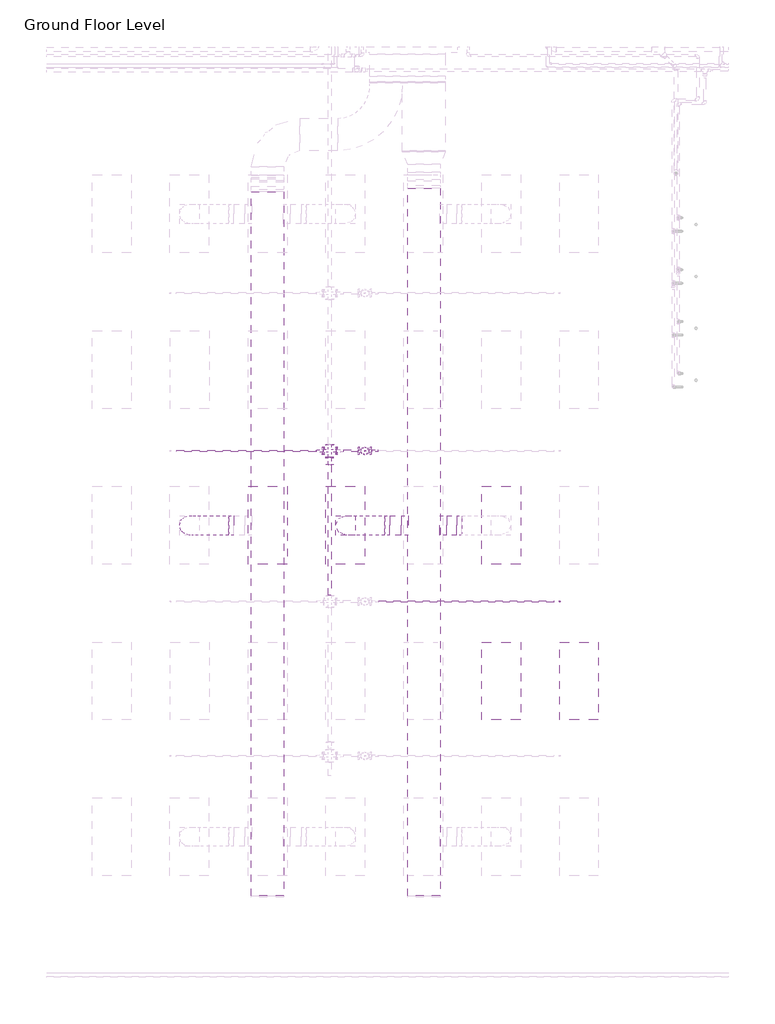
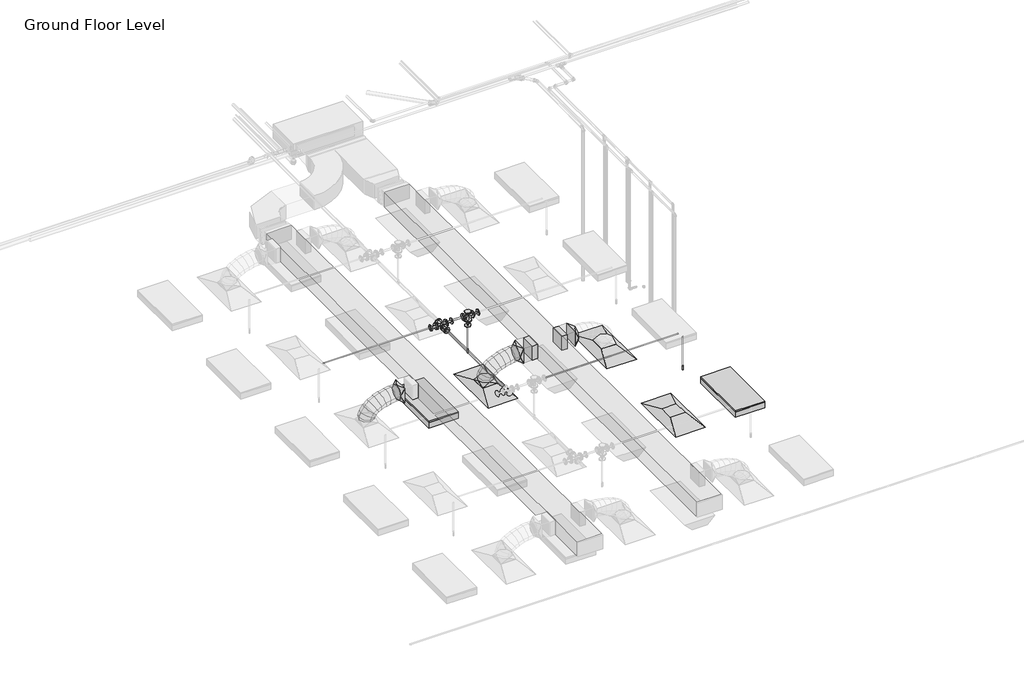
# One storey, part 46 of 74: 7 pipe fittings, 6 duct fittings, 6 duct segments, 6 pipe segments, 3 air terminals, 2 fire suppression terminals, 2 light fixtures.
"""IFC4 building model written with IfcOpenShell, lengths in millimetres."""

from ifc_helpers import new_model, si_unit, point, frame, frame_2d, origin, place, context, project, spatial, polyline, circle_curve, ellipse_curve, trimmed, segment, composite_curve, outline, extrude, transform, mapped, element, save
from ifc_brep_helpers import plane_surface, cylinder_surface, advanced_brep
from components import m_return_diffuser_1200x600_1200_x_600_face_300_x_300_d1983ef6, m_rectangular_takeoff_standard_cb0ccb98, m_rectangular_takeoff_standard_2be5eba1, m_rectangular_to_round_transition_angle_45_degree_641efff0, m_sprinkler_dry_pendent_hosted_15_mm_dry_pendent_9bda8e11, m_troffer_light_parabolic_rectangular1_0600x1200mm_4_lamp_86473d4a, m_cross_flanged_cs_class_150_standard_fc817054, m_reducer_flanged_cs_class_150_standard_ccf252ad, m_reducer_flanged_cs_class_150_standard_d42b2106, m_reducer_flanged_cs_class_150_standard_83138b42, m_reducer_flanged_cs_class_150_standard_564df86d, m_reducer_flanged_cs_class_150_standard_8338f9e4, m_tee_round_base_flanged_cs_class_150_standard_7e5987a1

model = new_model("IFC4")

# Units and contexts
model_context = context("Model", 3, world=origin())
ifc_project = project(units=[si_unit("LENGTHUNIT", "METRE", prefix="MILLI")], contexts=[model_context])

# Site, building, storey
site = spatial("IfcSite", under=ifc_project)
building = spatial("IfcBuilding", under=site)
storey = spatial("IfcBuildingStorey", under=building, Name="Ground Floor Level", Elevation=900.0)

# Air terminals
placement = place(None, origin())
m_return_diffuser_1200x600_1200_x_600_face_300_x_300_shape = m_return_diffuser_1200x600_1200_x_600_face_300_x_300_d1983ef6(model_context)
element("IfcAirTerminal", 1, ObjectType="M_Return Diffuser 1200x600 : 1200 x 600 Face 300 x 300 Connection", at=placement, inside=storey, context=model_context, shape_type="MappedRepresentation", body=[
    mapped(m_return_diffuser_1200x600_1200_x_600_face_300_x_300_shape, transform((-3337.2327605, 4035.2153534, 3650.0), x_axis=(0.0, 1.0, 0.0), y_axis=(-1.0, 0.0, 0.0), z_axis=(0.0, 0.0, 1.0))),
])
element("IfcAirTerminal", 2, ObjectType="M_Supply Diffuser 1200x600 : 1200 x 600 Face 300 x 300 Connection", at=placement, inside=storey, context=model_context, shape_type="MappedRepresentation", body=[
    mapped(m_return_diffuser_1200x600_1200_x_600_face_300_x_300_shape, transform((-5737.2327605, 6435.2153534, 3650.0), x_axis=(0.0, 1.0, 0.0), y_axis=(-1.0, 0.0, 0.0), z_axis=(0.0, 0.0, 1.0))),
])
element("IfcAirTerminal", 3, ObjectType="M_Supply Diffuser 1200x600 : 1200 x 600 Face 300 x 300 Connection", at=placement, inside=storey, context=model_context, shape_type="MappedRepresentation", body=[
    mapped(m_return_diffuser_1200x600_1200_x_600_face_300_x_300_shape, transform((-3337.2327605, 6435.2153534, 3650.0), x_axis=(0.0, 1.0, 0.0), y_axis=(-1.0, 0.0, 0.0), z_axis=(0.0, 0.0, 1.0))),
])

# Duct fittings
m_rectangular_takeoff_standard_shape = m_rectangular_takeoff_standard_cb0ccb98(model_context)
element("IfcDuctFitting", 4, ObjectType="M_Rectangular Takeoff : Standard", at=placement, inside=storey, context=model_context, shape_type="MappedRepresentation", body=[
    mapped(m_rectangular_takeoff_standard_shape, transform((-4278.6910789, 6435.2153534, 4150.0), x_axis=(1.0, 0.0, 0.0), y_axis=(0.0, -1.0, 0.0), z_axis=(0.0, 0.0, -1.0))),
])
m_rectangular_takeoff_standard_2_shape = m_rectangular_takeoff_standard_2be5eba1(model_context)
element("IfcDuctFitting", 5, ObjectType="M_Rectangular Takeoff : Standard", at=placement, inside=storey, context=model_context, shape_type="MappedRepresentation", body=[
    mapped(m_rectangular_takeoff_standard_2_shape, transform((-4778.6910789, 6435.2153534, 4150.0), x_axis=(-1.0, 0.0, 0.0), y_axis=(0.0, 1.0, 0.0), z_axis=(0.0, 0.0, -1.0))),
])
m_rectangular_to_round_transition_angle_45_degree_shape = m_rectangular_to_round_transition_angle_45_degree_641efff0(model_context)
element("IfcDuctFitting", 6, ObjectType="M_Rectangular to Round Transition - Angle : 45 Degree", at=placement, inside=storey, context=model_context, shape_type="MappedRepresentation", body=[
    mapped(m_rectangular_to_round_transition_angle_45_degree_shape, transform((-4018.6539738, 6435.2153534, 4150.0), x_axis=(1.0, 0.0, 0.0), y_axis=(0.0, 1.0, 0.0), z_axis=(0.0, 0.0, 1.0))),
])
element("IfcDuctFitting", 7, ObjectType="M_Rectangular to Round Transition - Angle : 45 Degree", at=placement, inside=storey, context=model_context, shape_type="MappedRepresentation", body=[
    mapped(m_rectangular_to_round_transition_angle_45_degree_shape, transform((-5737.2327605, 6435.2153534, 3751.6), x_axis=(0.0, 0.0, 1.0), y_axis=(-1.0, 0.0, 0.0), z_axis=(0.0, -1.0, 0.0))),
])
element("IfcDuctFitting", 8, ObjectType="M_Rectangular to Round Transition - Angle : 45 Degree", at=placement, inside=storey, context=model_context, shape_type="MappedRepresentation", body=[
    mapped(m_rectangular_to_round_transition_angle_45_degree_shape, transform((-5055.8115473, 6435.2153534, 4150.0), x_axis=(-1.0, 0.0, 0.0), y_axis=(0.0, -1.0, 0.0), z_axis=(0.0, 0.0, 1.0))),
])
element("IfcDuctFitting", 9, ObjectType="M_Rectangular to Round Transition - Angle : 45 Degree", at=placement, inside=storey, context=model_context, shape_type="MappedRepresentation", body=[
    mapped(m_rectangular_to_round_transition_angle_45_degree_shape, transform((-7461.2487616, 6435.2153534, 4150.0), x_axis=(-1.0, 0.0, 0.0), y_axis=(0.0, -1.0, 0.0), z_axis=(0.0, 0.0, 1.0))),
])

# Duct segments
element("IfcDuctSegment", 10, ObjectType="Flex - Round", at=placement, inside=storey, context=model_context, shape_type="AdvancedBrep", body=[
    advanced_brep(
    [(-5587.2327605, 6435.2153534, 3826.6), (-5737.2327605, 6285.2153534, 3826.6), (-5887.2327605, 6435.2153534, 3826.6), (-5737.2327605, 6585.2153534, 3826.6), (-5587.2327605, 6435.2153534, 3832.4836764), (-5737.2327605, 6285.2153534, 3857.3046173), (-5887.2327605, 6435.2153534, 3882.1255581), (-5737.2327605, 6585.2153534, 3857.3046173), (-5585.103404, 6435.2153534, 3838.7416543), (-5720.5718108, 6285.2153534, 3906.2695763), (-5856.0402176, 6435.2153534, 3973.7974983), (-5720.5718108, 6585.2153534, 3906.2695763), (-5563.0819031, 6435.2153534, 3871.1466478), (-5674.6950292, 6285.2153534, 3973.7779999), (-5786.3081553, 6435.2153534, 4076.409352), (-5674.6950292, 6585.2153534, 3973.7779999), (-5523.1404393, 6435.2153534, 3903.4907359), (-5605.7615172, 6285.2153534, 4029.599479), (-5688.382595, 6435.2153534, 4155.7082221), (-5605.7615172, 6585.2153534, 4029.599479), (-5460.2203199, 6435.2153534, 3936.1920073), (-5519.930376, 6285.2153534, 4074.2082221), (-5579.6404321, 6435.2153534, 4212.2244369), (-5519.930376, 6585.2153534, 4074.2082221), (-5381.3704755, 6435.2153534, 3963.847287), (-5423.360707, 6285.2153534, 4108.0784374), (-5465.3509386, 6435.2153534, 4252.3095878), (-5423.360707, 6585.2153534, 4108.0784374), (-5294.8012537, 6435.2153534, 3984.0505724), (-5322.2116117, 6285.2153534, 4131.6843333), (-5349.6219697, 6435.2153534, 4279.3180942), (-5322.2116117, 6585.2153534, 4131.6843333), (-5208.3198115, 6435.2153534, 3996.0503308), (-5222.6421913, 6285.2153534, 4145.500118), (-5236.9645711, 6435.2153534, 4294.9499053), (-5222.6421913, 6585.2153534, 4145.500118), (-5134.1613712, 6435.2153534, 4000.0), (-5138.1530331, 6285.2153534, 4150.0), (-5142.144695, 6435.2153534, 4300.0), (-5138.1530331, 6585.2153534, 4150.0), (-5130.8115473, 6435.2153534, 4000.0), (-5130.8115473, 6585.2153534, 4150.0), (-5130.8115473, 6435.2153534, 4300.0), (-5130.8115473, 6285.2153534, 4150.0)],
    [
        (0, 1, circle_curve(frame((-5737.2327605, 6435.2153534, 3826.6), z_axis=(0.0, 0.0, -1.0), x_axis=(1.0, 0.0, 0.0)), 150.0)),
        (1, 2, circle_curve(frame((-5737.2327605, 6435.2153534, 3826.6), z_axis=(0.0, 0.0, -1.0), x_axis=(1.0, 0.0, 0.0)), 150.0)),
        (2, 3, circle_curve(frame((-5737.2327605, 6435.2153534, 3826.6), z_axis=(0.0, 0.0, -1.0), x_axis=(1.0, 0.0, 0.0)), 150.0)),
        (3, 0, circle_curve(frame((-5737.2327605, 6435.2153534, 3826.6), z_axis=(0.0, 0.0, -1.0), x_axis=(1.0, 0.0, 0.0)), 150.0)),
        (0, 4),
        (4, 5, ellipse_curve(frame((-5737.2327605, 6435.2153534, 3857.3046173), z_axis=(-0.16325299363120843, 0.0, -0.9865842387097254), x_axis=(0.9865842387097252, 0.0, -0.16325299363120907)), 152.0397287, 150.0)),
        (5, 1),
        (5, 6, ellipse_curve(frame((-5737.2327605, 6435.2153534, 3857.3046173), z_axis=(-0.16325299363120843, 0.0, -0.9865842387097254), x_axis=(0.9865842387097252, 0.0, -0.16325299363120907)), 152.0397287, 150.0)),
        (6, 2),
        (6, 7, ellipse_curve(frame((-5737.2327605, 6435.2153534, 3857.3046173), z_axis=(-0.16325299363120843, 0.0, -0.9865842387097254), x_axis=(0.9865842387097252, 0.0, -0.16325299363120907)), 152.0397287, 150.0)),
        (7, 3),
        (7, 4, ellipse_curve(frame((-5737.2327605, 6435.2153534, 3857.3046173), z_axis=(-0.16325299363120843, 0.0, -0.9865842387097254), x_axis=(0.9865842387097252, 0.0, -0.16325299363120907)), 152.0397287, 150.0)),
        (4, 8),
        (8, 9, ellipse_curve(frame((-5720.5718108, 6435.2153534, 3906.2695763), z_axis=(-0.4461230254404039, 0.0, -0.894971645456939), x_axis=(0.8949716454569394, 0.0, -0.44612302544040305)), 151.3661438, 150.0)),
        (9, 5),
        (9, 10, ellipse_curve(frame((-5720.5718108, 6435.2153534, 3906.2695763), z_axis=(-0.4461230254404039, 0.0, -0.894971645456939), x_axis=(0.8949716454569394, 0.0, -0.44612302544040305)), 151.3661438, 150.0)),
        (10, 6),
        (10, 11, ellipse_curve(frame((-5720.5718108, 6435.2153534, 3906.2695763), z_axis=(-0.4461230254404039, 0.0, -0.894971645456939), x_axis=(0.8949716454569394, 0.0, -0.44612302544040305)), 151.3661438, 150.0)),
        (11, 7),
        (11, 8, ellipse_curve(frame((-5720.5718108, 6435.2153534, 3906.2695763), z_axis=(-0.4461230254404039, 0.0, -0.894971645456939), x_axis=(0.8949716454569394, 0.0, -0.44612302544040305)), 151.3661438, 150.0)),
        (8, 12),
        (12, 13, ellipse_curve(frame((-5674.6950292, 6435.2153534, 3973.7779999), z_axis=(-0.6768681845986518, 0.0, -0.7361042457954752), x_axis=(0.7361042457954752, 0.0, -0.6768681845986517)), 151.626793, 150.0)),
        (13, 9),
        (13, 14, ellipse_curve(frame((-5674.6950292, 6435.2153534, 3973.7779999), z_axis=(-0.6768681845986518, 0.0, -0.7361042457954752), x_axis=(0.7361042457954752, 0.0, -0.6768681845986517)), 151.626793, 150.0)),
        (14, 10),
        (14, 15, ellipse_curve(frame((-5674.6950292, 6435.2153534, 3973.7779999), z_axis=(-0.6768681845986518, 0.0, -0.7361042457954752), x_axis=(0.7361042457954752, 0.0, -0.6768681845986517)), 151.626793, 150.0)),
        (15, 11),
        (15, 12, ellipse_curve(frame((-5674.6950292, 6435.2153534, 3973.7779999), z_axis=(-0.6768681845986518, 0.0, -0.7361042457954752), x_axis=(0.7361042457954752, 0.0, -0.6768681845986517)), 151.626793, 150.0)),
        (12, 16),
        (16, 17, ellipse_curve(frame((-5605.7615172, 6435.2153534, 4029.599479), z_axis=(-0.8364668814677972, 0.0, -0.5480174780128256), x_axis=(0.5480174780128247, 0.0, -0.8364668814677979)), 150.7635818, 150.0)),
        (17, 13),
        (17, 18, ellipse_curve(frame((-5605.7615172, 6435.2153534, 4029.599479), z_axis=(-0.8364668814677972, 0.0, -0.5480174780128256), x_axis=(0.5480174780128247, 0.0, -0.8364668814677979)), 150.7635818, 150.0)),
        (18, 14),
        (18, 19, ellipse_curve(frame((-5605.7615172, 6435.2153534, 4029.599479), z_axis=(-0.8364668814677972, 0.0, -0.5480174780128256), x_axis=(0.5480174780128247, 0.0, -0.8364668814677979)), 150.7635818, 150.0)),
        (19, 15),
        (19, 16, ellipse_curve(frame((-5605.7615172, 6435.2153534, 4029.599479), z_axis=(-0.8364668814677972, 0.0, -0.5480174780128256), x_axis=(0.5480174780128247, 0.0, -0.8364668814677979)), 150.7635818, 150.0)),
        (16, 20),
        (20, 21, ellipse_curve(frame((-5519.930376, 6435.2153534, 4074.2082221), z_axis=(-0.917790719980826, 0.0, -0.3970644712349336), x_axis=(0.3970644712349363, 0.0, -0.9177907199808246)), 150.378743, 150.0)),
        (21, 17),
        (21, 22, ellipse_curve(frame((-5519.930376, 6435.2153534, 4074.2082221), z_axis=(-0.917790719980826, 0.0, -0.3970644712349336), x_axis=(0.3970644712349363, 0.0, -0.9177907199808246)), 150.378743, 150.0)),
        (22, 18),
        (22, 23, ellipse_curve(frame((-5519.930376, 6435.2153534, 4074.2082221), z_axis=(-0.917790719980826, 0.0, -0.3970644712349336), x_axis=(0.3970644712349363, 0.0, -0.9177907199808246)), 150.378743, 150.0)),
        (23, 19),
        (23, 20, ellipse_curve(frame((-5519.930376, 6435.2153534, 4074.2082221), z_axis=(-0.917790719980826, 0.0, -0.3970644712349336), x_axis=(0.3970644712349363, 0.0, -0.9177907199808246)), 150.378743, 150.0)),
        (20, 24),
        (24, 25, ellipse_curve(frame((-5423.360707, 6435.2153534, 4108.0784374), z_axis=(-0.9601380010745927, 0.0, -0.2795264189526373), x_axis=(0.279526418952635, 0.0, -0.9601380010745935)), 150.2191875, 150.0)),
        (25, 21),
        (25, 26, ellipse_curve(frame((-5423.360707, 6435.2153534, 4108.0784374), z_axis=(-0.9601380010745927, 0.0, -0.2795264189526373), x_axis=(0.279526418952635, 0.0, -0.9601380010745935)), 150.2191875, 150.0)),
        (26, 22),
        (26, 27, ellipse_curve(frame((-5423.360707, 6435.2153534, 4108.0784374), z_axis=(-0.9601380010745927, 0.0, -0.2795264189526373), x_axis=(0.279526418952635, 0.0, -0.9601380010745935)), 150.2191875, 150.0)),
        (27, 23),
        (27, 24, ellipse_curve(frame((-5423.360707, 6435.2153534, 4108.0784374), z_axis=(-0.9601380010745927, 0.0, -0.2795264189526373), x_axis=(0.279526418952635, 0.0, -0.9601380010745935)), 150.2191875, 150.0)),
        (24, 28),
        (28, 29, ellipse_curve(frame((-5322.2116117, 6435.2153534, 4131.6843333), z_axis=(-0.9831975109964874, 0.0, -0.1825449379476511), x_axis=(0.1825449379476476, 0.0, -0.9831975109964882)), 150.1567684, 150.0)),
        (29, 25),
        (29, 30, ellipse_curve(frame((-5322.2116117, 6435.2153534, 4131.6843333), z_axis=(-0.9831975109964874, 0.0, -0.1825449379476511), x_axis=(0.1825449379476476, 0.0, -0.9831975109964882)), 150.1567684, 150.0)),
        (30, 26),
        (30, 31, ellipse_curve(frame((-5322.2116117, 6435.2153534, 4131.6843333), z_axis=(-0.9831975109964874, 0.0, -0.1825449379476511), x_axis=(0.1825449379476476, 0.0, -0.9831975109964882)), 150.1567684, 150.0)),
        (31, 27),
        (31, 28, ellipse_curve(frame((-5322.2116117, 6435.2153534, 4131.6843333), z_axis=(-0.9831975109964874, 0.0, -0.1825449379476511), x_axis=(0.1825449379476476, 0.0, -0.9831975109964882)), 150.1567684, 150.0)),
        (28, 32),
        (32, 33, ellipse_curve(frame((-5222.6421913, 6435.2153534, 4145.500118), z_axis=(-0.99543930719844, 0.0, -0.09539698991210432), x_axis=(0.09539698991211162, 0.0, -0.9954393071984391)), 150.1345046, 150.0)),
        (33, 29),
        (33, 34, ellipse_curve(frame((-5222.6421913, 6435.2153534, 4145.500118), z_axis=(-0.99543930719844, 0.0, -0.09539698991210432), x_axis=(0.09539698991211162, 0.0, -0.9954393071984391)), 150.1345046, 150.0)),
        (34, 30),
        (34, 35, ellipse_curve(frame((-5222.6421913, 6435.2153534, 4145.500118), z_axis=(-0.99543930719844, 0.0, -0.09539698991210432), x_axis=(0.09539698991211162, 0.0, -0.9954393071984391)), 150.1345046, 150.0)),
        (35, 31),
        (35, 32, ellipse_curve(frame((-5222.6421913, 6435.2153534, 4145.500118), z_axis=(-0.99543930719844, 0.0, -0.09539698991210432), x_axis=(0.09539698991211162, 0.0, -0.9954393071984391)), 150.1345046, 150.0)),
        (32, 36),
        (36, 37, ellipse_curve(frame((-5138.1530331, 6435.2153534, 4150.0), z_axis=(-0.9996461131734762, 0.0, -0.026601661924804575), x_axis=(0.026601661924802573, 0.0, -0.9996461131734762)), 150.0531018, 150.0)),
        (37, 33),
        (37, 38, ellipse_curve(frame((-5138.1530331, 6435.2153534, 4150.0), z_axis=(-0.9996461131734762, 0.0, -0.026601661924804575), x_axis=(0.026601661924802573, 0.0, -0.9996461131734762)), 150.0531018, 150.0)),
        (38, 34),
        (38, 39, ellipse_curve(frame((-5138.1530331, 6435.2153534, 4150.0), z_axis=(-0.9996461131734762, 0.0, -0.026601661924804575), x_axis=(0.026601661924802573, 0.0, -0.9996461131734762)), 150.0531018, 150.0)),
        (39, 35),
        (39, 36, ellipse_curve(frame((-5138.1530331, 6435.2153534, 4150.0), z_axis=(-0.9996461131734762, 0.0, -0.026601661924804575), x_axis=(0.026601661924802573, 0.0, -0.9996461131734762)), 150.0531018, 150.0)),
        (40, 41, circle_curve(frame((-5130.8115473, 6435.2153534, 4150.0), z_axis=(1.0, 0.0, 0.0), x_axis=(0.0, 0.0, -1.0)), 150.0)),
        (41, 42, circle_curve(frame((-5130.8115473, 6435.2153534, 4150.0), z_axis=(1.0, 0.0, 0.0), x_axis=(0.0, 0.0, -1.0)), 150.0)),
        (42, 43, circle_curve(frame((-5130.8115473, 6435.2153534, 4150.0), z_axis=(1.0, 0.0, 0.0), x_axis=(0.0, 0.0, -1.0)), 150.0)),
        (43, 40, circle_curve(frame((-5130.8115473, 6435.2153534, 4150.0), z_axis=(1.0, 0.0, 0.0), x_axis=(0.0, 0.0, -1.0)), 150.0)),
        (36, 40),
        (43, 37),
        (42, 38),
        (41, 39),
    ],
    [
        plane_surface(frame((-5737.2327605, 6285.2153534, 3826.6), z_axis=(0.0, 0.0, -1.0), x_axis=(1.0, 0.0, 0.0))),
        cylinder_surface(frame((-5737.2327605, 6435.2153534, 3826.6), z_axis=(0.0, 0.0, -1.0), x_axis=(1.0, 0.0, 0.0)), 150.0),
        cylinder_surface(frame((-5737.2327605, 6435.2153534, 3857.3046173), z_axis=(-0.3221256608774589, 0.0, -0.9466969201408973), x_axis=(0.9466969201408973, 0.0, -0.3221256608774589)), 150.0),
        cylinder_surface(frame((-5720.5718108, 6435.2153534, 3906.2695763), z_axis=(-0.5620674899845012, 0.0, -0.8270913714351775), x_axis=(0.8270913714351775, 0.0, -0.5620674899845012)), 150.0),
        cylinder_surface(frame((-5674.6950292, 6435.2153534, 3973.7779999), z_axis=(-0.7771447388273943, 0.0, -0.6293219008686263), x_axis=(0.6293219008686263, 0.0, -0.7771447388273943)), 150.0),
        cylinder_surface(frame((-5605.7615172, 6435.2153534, 4029.599479), z_axis=(-0.8873160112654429, 0.0, -0.4611618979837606), x_axis=(0.4611618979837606, 0.0, -0.8873160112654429)), 150.0),
        cylinder_surface(frame((-5519.930376, 6435.2153534, 4074.2082221), z_axis=(-0.9436423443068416, 0.0, -0.3309669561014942), x_axis=(0.3309669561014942, 0.0, -0.9436423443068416)), 150.0),
        cylinder_surface(frame((-5423.360707, 6435.2153534, 4108.0784374), z_axis=(-0.9738317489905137, 0.0, -0.2272701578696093), x_axis=(0.2272701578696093, 0.0, -0.9738317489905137)), 150.0),
        cylinder_surface(frame((-5322.2116117, 6435.2153534, 4131.6843333), z_axis=(-0.9905102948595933, 0.0, -0.13743855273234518), x_axis=(0.13743855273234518, 0.0, -0.9905102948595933)), 150.0),
        cylinder_surface(frame((-5222.6421913, 6435.2153534, 4145.500118), z_axis=(-0.9985847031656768, 0.0, -0.05318449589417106), x_axis=(0.05318449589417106, 0.0, -0.9985847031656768)), 150.0),
        plane_surface(frame((-5130.8115473, 6435.2153534, 4000.0), z_axis=(1.0, 0.0, 0.0), x_axis=(0.0, 1.0, 0.0))),
        cylinder_surface(frame((-5138.1530331, 6435.2153534, 4150.0), z_axis=(-1.0, 0.0, 0.0), x_axis=(0.0, 0.0, -1.0)), 150.0),
    ],
    [
        (0, [[1, 2, 3, 4]]),
        (1, [[-1, 5, 6, 7]]),
        (1, [[-2, -7, 8, 9]]),
        (1, [[-3, -9, 10, 11]]),
        (1, [[-4, -11, 12, -5]]),
        (2, [[-6, 13, 14, 15]]),
        (2, [[-8, -15, 16, 17]]),
        (2, [[-10, -17, 18, 19]]),
        (2, [[-12, -19, 20, -13]]),
        (3, [[-14, 21, 22, 23]]),
        (3, [[-16, -23, 24, 25]]),
        (3, [[-18, -25, 26, 27]]),
        (3, [[-20, -27, 28, -21]]),
        (4, [[-22, 29, 30, 31]]),
        (4, [[-24, -31, 32, 33]]),
        (4, [[-26, -33, 34, 35]]),
        (4, [[-28, -35, 36, -29]]),
        (5, [[-30, 37, 38, 39]]),
        (5, [[-32, -39, 40, 41]]),
        (5, [[-34, -41, 42, 43]]),
        (5, [[-36, -43, 44, -37]]),
        (6, [[-38, 45, 46, 47]]),
        (6, [[-40, -47, 48, 49]]),
        (6, [[-42, -49, 50, 51]]),
        (6, [[-44, -51, 52, -45]]),
        (7, [[-46, 53, 54, 55]]),
        (7, [[-48, -55, 56, 57]]),
        (7, [[-50, -57, 58, 59]]),
        (7, [[-52, -59, 60, -53]]),
        (8, [[-54, 61, 62, 63]]),
        (8, [[-56, -63, 64, 65]]),
        (8, [[-58, -65, 66, 67]]),
        (8, [[-60, -67, 68, -61]]),
        (9, [[-62, 69, 70, 71]]),
        (9, [[-64, -71, 72, 73]]),
        (9, [[-66, -73, 74, 75]]),
        (9, [[-68, -75, 76, -69]]),
        (10, [[77, 78, 79, 80]]),
        (11, [[-70, 81, -80, 82]]),
        (11, [[-72, -82, -79, 83]]),
        (11, [[-74, -83, -78, 84]]),
        (11, [[-76, -84, -77, -81]]),
    ],
),
])
element("IfcDuctSegment", 11, ObjectType="Flex - Round", at=placement, inside=storey, context=model_context, shape_type="AdvancedBrep", body=[
    advanced_brep(
    [(-7992.6846929, 6435.2153534, 3826.6), (-8142.6846929, 6285.2153534, 3826.6), (-8292.6846929, 6435.2153534, 3826.6), (-8142.6846929, 6585.2153534, 3826.6), (-7992.6846929, 6435.2153534, 3832.4838104), (-8142.6846929, 6285.2153534, 3857.3049615), (-8292.6846929, 6435.2153534, 3882.1261126), (-8142.6846929, 6585.2153534, 3857.3049615), (-7990.555208, 6435.2153534, 3838.7421096), (-8126.0232883, 6285.2153534, 3906.2708192), (-8261.4913687, 6435.2153534, 3973.7995287), (-8126.0232883, 6585.2153534, 3906.2708192), (-7968.5331802, 6435.2153534, 3871.1472855), (-8080.1452707, 6285.2153534, 3973.7798261), (-8191.7573612, 6435.2153534, 4076.4123668), (-8080.1452707, 6585.2153534, 3973.7798261), (-7928.5904556, 6435.2153534, 3903.4915826), (-8011.2099341, 6285.2153534, 4029.6013814), (-8093.8294126, 6435.2153534, 4155.7111802), (-8011.2099341, 6585.2153534, 4029.6013814), (-7865.6682729, 6435.2153534, 3936.1928758), (-7925.3765727, 6285.2153534, 4074.2098454), (-7985.0848725, 6435.2153534, 4212.226815), (-7925.3765727, 6585.2153534, 4074.2098454), (-7786.815881, 6435.2153534, 3963.8479616), (-7828.8044806, 6285.2153534, 4108.0795788), (-7870.7930803, 6435.2153534, 4252.311196), (-7828.8044806, 6585.2153534, 4108.0795788), (-7700.2438983, 6435.2153534, 3984.0509494), (-7727.652952, 6285.2153534, 4131.684942), (-7755.0620057, 6435.2153534, 4279.3189347), (-7727.652952, 6585.2153534, 4131.684942), (-7613.759715, 6435.2153534, 3996.0504424), (-7628.081281, 6285.2153534, 4145.5002956), (-7642.4028469, 6435.2153534, 4294.9501488), (-7628.081281, 6585.2153534, 4145.5002956), (-7539.5984134, 6435.2153534, 4000.0), (-7543.5898089, 6285.2153534, 4150.0), (-7547.5812043, 6435.2153534, 4300.0), (-7543.5898089, 6585.2153534, 4150.0), (-7536.2487616, 6435.2153534, 4000.0), (-7536.2487616, 6585.2153534, 4150.0), (-7536.2487616, 6435.2153534, 4300.0), (-7536.2487616, 6285.2153534, 4150.0)],
    [
        (0, 1, circle_curve(frame((-8142.6846929, 6435.2153534, 3826.6), z_axis=(0.0, 0.0, -1.0), x_axis=(1.0, 0.0, 0.0)), 150.0)),
        (1, 2, circle_curve(frame((-8142.6846929, 6435.2153534, 3826.6), z_axis=(0.0, 0.0, -1.0), x_axis=(1.0, 0.0, 0.0)), 150.0)),
        (2, 3, circle_curve(frame((-8142.6846929, 6435.2153534, 3826.6), z_axis=(0.0, 0.0, -1.0), x_axis=(1.0, 0.0, 0.0)), 150.0)),
        (3, 0, circle_curve(frame((-8142.6846929, 6435.2153534, 3826.6), z_axis=(0.0, 0.0, -1.0), x_axis=(1.0, 0.0, 0.0)), 150.0)),
        (0, 4),
        (4, 5, ellipse_curve(frame((-8142.6846929, 6435.2153534, 3857.3049615), z_axis=(-0.1632543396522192, 0.0, -0.9865840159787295), x_axis=(0.9865840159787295, 0.0, -0.16325433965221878)), 152.039763, 150.0)),
        (5, 1),
        (5, 6, ellipse_curve(frame((-8142.6846929, 6435.2153534, 3857.3049615), z_axis=(-0.1632543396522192, 0.0, -0.9865840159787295), x_axis=(0.9865840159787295, 0.0, -0.16325433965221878)), 152.039763, 150.0)),
        (6, 2),
        (6, 7, ellipse_curve(frame((-8142.6846929, 6435.2153534, 3857.3049615), z_axis=(-0.1632543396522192, 0.0, -0.9865840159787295), x_axis=(0.9865840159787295, 0.0, -0.16325433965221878)), 152.039763, 150.0)),
        (7, 3),
        (7, 4, ellipse_curve(frame((-8142.6846929, 6435.2153534, 3857.3049615), z_axis=(-0.1632543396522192, 0.0, -0.9865840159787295), x_axis=(0.9865840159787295, 0.0, -0.16325433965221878)), 152.039763, 150.0)),
        (4, 8),
        (8, 9, ellipse_curve(frame((-8126.0232883, 6435.2153534, 3906.2708192), z_axis=(-0.44612805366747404, 0.0, -0.8949691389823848), x_axis=(0.8949691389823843, 0.0, -0.44612805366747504)), 151.366203, 150.0)),
        (9, 5),
        (9, 10, ellipse_curve(frame((-8126.0232883, 6435.2153534, 3906.2708192), z_axis=(-0.44612805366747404, 0.0, -0.8949691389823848), x_axis=(0.8949691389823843, 0.0, -0.44612805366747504)), 151.366203, 150.0)),
        (10, 6),
        (10, 11, ellipse_curve(frame((-8126.0232883, 6435.2153534, 3906.2708192), z_axis=(-0.44612805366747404, 0.0, -0.8949691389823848), x_axis=(0.8949691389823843, 0.0, -0.44612805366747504)), 151.366203, 150.0)),
        (11, 7),
        (11, 8, ellipse_curve(frame((-8126.0232883, 6435.2153534, 3906.2708192), z_axis=(-0.44612805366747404, 0.0, -0.8949691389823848), x_axis=(0.8949691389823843, 0.0, -0.44612805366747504)), 151.366203, 150.0)),
        (8, 12),
        (12, 13, ellipse_curve(frame((-8080.1452707, 6435.2153534, 3973.7798261), z_axis=(-0.6768758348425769, 0.0, -0.7360972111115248), x_axis=(0.7360972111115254, 0.0, -0.6768758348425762)), 151.6268352, 150.0)),
        (13, 9),
        (13, 14, ellipse_curve(frame((-8080.1452707, 6435.2153534, 3973.7798261), z_axis=(-0.6768758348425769, 0.0, -0.7360972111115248), x_axis=(0.7360972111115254, 0.0, -0.6768758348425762)), 151.6268352, 150.0)),
        (14, 10),
        (14, 15, ellipse_curve(frame((-8080.1452707, 6435.2153534, 3973.7798261), z_axis=(-0.6768758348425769, 0.0, -0.7360972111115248), x_axis=(0.7360972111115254, 0.0, -0.6768758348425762)), 151.6268352, 150.0)),
        (15, 11),
        (15, 12, ellipse_curve(frame((-8080.1452707, 6435.2153534, 3973.7798261), z_axis=(-0.6768758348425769, 0.0, -0.7360972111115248), x_axis=(0.7360972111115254, 0.0, -0.6768758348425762)), 151.6268352, 150.0)),
        (12, 16),
        (16, 17, ellipse_curve(frame((-8011.2099341, 6435.2153534, 4029.6013814), z_axis=(-0.8364738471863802, 0.0, -0.5480068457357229), x_axis=(0.5480068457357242, 0.0, -0.8364738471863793)), 150.7635884, 150.0)),
        (17, 13),
        (17, 18, ellipse_curve(frame((-8011.2099341, 6435.2153534, 4029.6013814), z_axis=(-0.8364738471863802, 0.0, -0.5480068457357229), x_axis=(0.5480068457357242, 0.0, -0.8364738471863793)), 150.7635884, 150.0)),
        (18, 14),
        (18, 19, ellipse_curve(frame((-8011.2099341, 6435.2153534, 4029.6013814), z_axis=(-0.8364738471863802, 0.0, -0.5480068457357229), x_axis=(0.5480068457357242, 0.0, -0.8364738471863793)), 150.7635884, 150.0)),
        (19, 15),
        (19, 16, ellipse_curve(frame((-8011.2099341, 6435.2153534, 4029.6013814), z_axis=(-0.8364738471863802, 0.0, -0.5480068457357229), x_axis=(0.5480068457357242, 0.0, -0.8364738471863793)), 150.7635884, 150.0)),
        (16, 20),
        (20, 21, ellipse_curve(frame((-7925.3765727, 6435.2153534, 4074.2098454), z_axis=(-0.9177957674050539, 0.0, -0.39705280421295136), x_axis=(0.39705280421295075, 0.0, -0.9177957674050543)), 150.3787384, 150.0)),
        (21, 17),
        (21, 22, ellipse_curve(frame((-7925.3765727, 6435.2153534, 4074.2098454), z_axis=(-0.9177957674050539, 0.0, -0.39705280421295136), x_axis=(0.39705280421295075, 0.0, -0.9177957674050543)), 150.3787384, 150.0)),
        (22, 18),
        (22, 23, ellipse_curve(frame((-7925.3765727, 6435.2153534, 4074.2098454), z_axis=(-0.9177957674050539, 0.0, -0.39705280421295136), x_axis=(0.39705280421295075, 0.0, -0.9177957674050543)), 150.3787384, 150.0)),
        (23, 19),
        (23, 20, ellipse_curve(frame((-7925.3765727, 6435.2153534, 4074.2098454), z_axis=(-0.9177957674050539, 0.0, -0.39705280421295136), x_axis=(0.39705280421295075, 0.0, -0.9177957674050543)), 150.3787384, 150.0)),
        (20, 24),
        (24, 25, ellipse_curve(frame((-7828.8044806, 6435.2153534, 4108.0795788), z_axis=(-0.9601411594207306, 0.0, -0.2795155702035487), x_axis=(0.27951557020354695, 0.0, -0.9601411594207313)), 150.2191795, 150.0)),
        (25, 21),
        (25, 26, ellipse_curve(frame((-7828.8044806, 6435.2153534, 4108.0795788), z_axis=(-0.9601411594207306, 0.0, -0.2795155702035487), x_axis=(0.27951557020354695, 0.0, -0.9601411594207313)), 150.2191795, 150.0)),
        (26, 22),
        (26, 27, ellipse_curve(frame((-7828.8044806, 6435.2153534, 4108.0795788), z_axis=(-0.9601411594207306, 0.0, -0.2795155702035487), x_axis=(0.27951557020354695, 0.0, -0.9601411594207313)), 150.2191795, 150.0)),
        (27, 23),
        (27, 24, ellipse_curve(frame((-7828.8044806, 6435.2153534, 4108.0795788), z_axis=(-0.9601411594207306, 0.0, -0.2795155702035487), x_axis=(0.27951557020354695, 0.0, -0.9601411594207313)), 150.2191795, 150.0)),
        (24, 28),
        (28, 29, ellipse_curve(frame((-7727.652952, 6435.2153534, 4131.684942), z_axis=(-0.9831991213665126, 0.0, -0.1825362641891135), x_axis=(0.1825362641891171, 0.0, -0.9831991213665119)), 150.1567581, 150.0)),
        (29, 25),
        (29, 30, ellipse_curve(frame((-7727.652952, 6435.2153534, 4131.684942), z_axis=(-0.9831991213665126, 0.0, -0.1825362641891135), x_axis=(0.1825362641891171, 0.0, -0.9831991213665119)), 150.1567581, 150.0)),
        (30, 26),
        (30, 31, ellipse_curve(frame((-7727.652952, 6435.2153534, 4131.684942), z_axis=(-0.9831991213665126, 0.0, -0.1825362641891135), x_axis=(0.1825362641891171, 0.0, -0.9831991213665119)), 150.1567581, 150.0)),
        (31, 27),
        (31, 28, ellipse_curve(frame((-7727.652952, 6435.2153534, 4131.684942), z_axis=(-0.9831991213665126, 0.0, -0.1825362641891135), x_axis=(0.1825362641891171, 0.0, -0.9831991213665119)), 150.1567581, 150.0)),
        (28, 32),
        (32, 33, ellipse_curve(frame((-7628.081281, 6435.2153534, 4145.5002956), z_axis=(-0.9954398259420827, 0.0, -0.09539157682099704), x_axis=(0.09539157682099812, 0.0, -0.9954398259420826)), 150.1344926, 150.0)),
        (33, 29),
        (33, 34, ellipse_curve(frame((-7628.081281, 6435.2153534, 4145.5002956), z_axis=(-0.9954398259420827, 0.0, -0.09539157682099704), x_axis=(0.09539157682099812, 0.0, -0.9954398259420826)), 150.1344926, 150.0)),
        (34, 30),
        (34, 35, ellipse_curve(frame((-7628.081281, 6435.2153534, 4145.5002956), z_axis=(-0.9954398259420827, 0.0, -0.09539157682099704), x_axis=(0.09539157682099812, 0.0, -0.9954398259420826)), 150.1344926, 150.0)),
        (35, 31),
        (35, 32, ellipse_curve(frame((-7628.081281, 6435.2153534, 4145.5002956), z_axis=(-0.9954398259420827, 0.0, -0.09539157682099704), x_axis=(0.09539157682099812, 0.0, -0.9954398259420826)), 150.1344926, 150.0)),
        (32, 36),
        (36, 37, ellipse_curve(frame((-7543.5898089, 6435.2153534, 4150.0), z_axis=(-0.9996461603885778, 0.0, -0.026599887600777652), x_axis=(0.026599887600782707, 0.0, -0.9996461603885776)), 150.0530947, 150.0)),
        (37, 33),
        (37, 38, ellipse_curve(frame((-7543.5898089, 6435.2153534, 4150.0), z_axis=(-0.9996461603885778, 0.0, -0.026599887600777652), x_axis=(0.026599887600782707, 0.0, -0.9996461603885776)), 150.0530947, 150.0)),
        (38, 34),
        (38, 39, ellipse_curve(frame((-7543.5898089, 6435.2153534, 4150.0), z_axis=(-0.9996461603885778, 0.0, -0.026599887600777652), x_axis=(0.026599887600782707, 0.0, -0.9996461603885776)), 150.0530947, 150.0)),
        (39, 35),
        (39, 36, ellipse_curve(frame((-7543.5898089, 6435.2153534, 4150.0), z_axis=(-0.9996461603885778, 0.0, -0.026599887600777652), x_axis=(0.026599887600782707, 0.0, -0.9996461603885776)), 150.0530947, 150.0)),
        (40, 41, circle_curve(frame((-7536.2487616, 6435.2153534, 4150.0), z_axis=(1.0, 0.0, 0.0), x_axis=(0.0, 0.0, -1.0)), 150.0)),
        (41, 42, circle_curve(frame((-7536.2487616, 6435.2153534, 4150.0), z_axis=(1.0, 0.0, 0.0), x_axis=(0.0, 0.0, -1.0)), 150.0)),
        (42, 43, circle_curve(frame((-7536.2487616, 6435.2153534, 4150.0), z_axis=(1.0, 0.0, 0.0), x_axis=(0.0, 0.0, -1.0)), 150.0)),
        (43, 40, circle_curve(frame((-7536.2487616, 6435.2153534, 4150.0), z_axis=(1.0, 0.0, 0.0), x_axis=(0.0, 0.0, -1.0)), 150.0)),
        (36, 40),
        (43, 37),
        (42, 38),
        (41, 39),
    ],
    [
        plane_surface(frame((-8142.6846929, 6285.2153534, 3826.6), z_axis=(0.0, 0.0, -1.0), x_axis=(1.0, 0.0, 0.0))),
        cylinder_surface(frame((-8142.6846929, 6435.2153534, 3826.6), z_axis=(0.0, 0.0, -1.0), x_axis=(1.0, 0.0, 0.0)), 150.0),
        cylinder_surface(frame((-8142.6846929, 6435.2153534, 3857.3049615), z_axis=(-0.32212824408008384, 0.0, -0.9466960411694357), x_axis=(0.9466960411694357, 0.0, -0.32212824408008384)), 150.0),
        cylinder_surface(frame((-8126.0232883, 6435.2153534, 3906.2708192), z_axis=(-0.5620745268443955, 0.0, -0.8270865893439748), x_axis=(0.8270865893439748, 0.0, -0.5620745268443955)), 150.0),
        cylinder_surface(frame((-8080.1452707, 6435.2153534, 3973.7798261), z_axis=(-0.777152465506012, 0.0, -0.6293123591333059), x_axis=(0.6293123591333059, 0.0, -0.777152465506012)), 150.0),
        cylinder_surface(frame((-8011.2099341, 6435.2153534, 4029.6013814), z_axis=(-0.887322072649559, 0.0, -0.4611502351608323), x_axis=(0.4611502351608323, 0.0, -0.887322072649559)), 150.0),
        cylinder_surface(frame((-7925.3765727, 6435.2153534, 4074.2098454), z_axis=(-0.9436464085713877, 0.0, -0.3309553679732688), x_axis=(0.3309553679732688, 0.0, -0.9436464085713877)), 150.0),
        cylinder_surface(frame((-7828.8044806, 6435.2153534, 4108.0795788), z_axis=(-0.9738340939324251, 0.0, -0.22726010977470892), x_axis=(0.22726010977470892, 0.0, -0.9738340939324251)), 150.0),
        cylinder_surface(frame((-7727.652952, 6435.2153534, 4131.684942), z_axis=(-0.9905113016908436, 0.0, -0.137431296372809), x_axis=(0.137431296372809, 0.0, -0.9905113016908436)), 150.0),
        cylinder_surface(frame((-7628.081281, 6435.2153534, 4145.5002956), z_axis=(-0.998584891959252, 0.0, -0.05318095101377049), x_axis=(0.05318095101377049, 0.0, -0.998584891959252)), 150.0),
        plane_surface(frame((-7536.2487616, 6435.2153534, 4000.0), z_axis=(1.0, 0.0, 0.0), x_axis=(0.0, 1.0, 0.0))),
        cylinder_surface(frame((-7543.5898089, 6435.2153534, 4150.0), z_axis=(-1.0, 0.0, 0.0), x_axis=(0.0, 0.0, -1.0)), 150.0),
    ],
    [
        (0, [[1, 2, 3, 4]]),
        (1, [[-1, 5, 6, 7]]),
        (1, [[-2, -7, 8, 9]]),
        (1, [[-3, -9, 10, 11]]),
        (1, [[-4, -11, 12, -5]]),
        (2, [[-6, 13, 14, 15]]),
        (2, [[-8, -15, 16, 17]]),
        (2, [[-10, -17, 18, 19]]),
        (2, [[-12, -19, 20, -13]]),
        (3, [[-14, 21, 22, 23]]),
        (3, [[-16, -23, 24, 25]]),
        (3, [[-18, -25, 26, 27]]),
        (3, [[-20, -27, 28, -21]]),
        (4, [[-22, 29, 30, 31]]),
        (4, [[-24, -31, 32, 33]]),
        (4, [[-26, -33, 34, 35]]),
        (4, [[-28, -35, 36, -29]]),
        (5, [[-30, 37, 38, 39]]),
        (5, [[-32, -39, 40, 41]]),
        (5, [[-34, -41, 42, 43]]),
        (5, [[-36, -43, 44, -37]]),
        (6, [[-38, 45, 46, 47]]),
        (6, [[-40, -47, 48, 49]]),
        (6, [[-42, -49, 50, 51]]),
        (6, [[-44, -51, 52, -45]]),
        (7, [[-46, 53, 54, 55]]),
        (7, [[-48, -55, 56, 57]]),
        (7, [[-50, -57, 58, 59]]),
        (7, [[-52, -59, 60, -53]]),
        (8, [[-54, 61, 62, 63]]),
        (8, [[-56, -63, 64, 65]]),
        (8, [[-58, -65, 66, 67]]),
        (8, [[-60, -67, 68, -61]]),
        (9, [[-62, 69, 70, 71]]),
        (9, [[-64, -71, 72, 73]]),
        (9, [[-66, -73, 74, 75]]),
        (9, [[-68, -75, 76, -69]]),
        (10, [[77, 78, 79, 80]]),
        (11, [[-70, 81, -80, 82]]),
        (11, [[-72, -82, -79, 83]]),
        (11, [[-74, -83, -78, 84]]),
        (11, [[-76, -84, -77, -81]]),
    ],
),
])
element("IfcDuctSegment", 12, ObjectType="Radius Elbows / Taps", at=placement, inside=storey, context=model_context, shape_type="SweptSolid", body=[
    extrude(outline(polyline([(0.0, -500.0), (0.0, 0.0), (10907.5406802, 0.0), (10907.5406802, -500.0), (0.0, -500.0)])), frame((-4278.6910789, 11632.7713459, 3999.998201), z_axis=(0.0, 3.864729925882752e-06, 0.999999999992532), x_axis=(0.0, -0.999999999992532, 3.864729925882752e-06)), (0.0, 0.0, 1.0), 300.0),
])
element("IfcDuctSegment", 13, ObjectType="Radius Elbows / Taps", at=placement, inside=storey, context=model_context, shape_type="SweptSolid", body=[
    extrude(outline(polyline([(-6689.6910789, 725.2153534), (-7189.6910789, 725.2153534), (-7189.6910789, 11576.9494141), (-6689.6910789, 11576.9494141), (-6689.6910789, 725.2153534)])), frame((0.0, 0.0, 4000.0), z_axis=(0.0, 0.0, 1.0), x_axis=(1.0, 0.0, 0.0)), (0.0, 0.0, 1.0), 300.0),
])
element("IfcDuctSegment", 14, ObjectType="Radius Elbows / Taps", at=placement, inside=storey, context=model_context, shape_type="SweptSolid", body=[
    extrude(outline(polyline([(-4177.0910789, 6285.2153534), (-4177.0910789, 6585.2153534), (-4018.6539738, 6585.2153534), (-4018.6539738, 6285.2153534), (-4177.0910789, 6285.2153534)])), frame((0.0, 0.0, 4000.0), z_axis=(0.0, 0.0, 1.0), x_axis=(1.0, 0.0, 0.0)), (0.0, 0.0, 1.0), 300.0),
])
element("IfcDuctSegment", 15, ObjectType="Radius Elbows / Taps", at=placement, inside=storey, context=model_context, shape_type="SweptSolid", body=[
    extrude(outline(polyline([(-4880.2910789, 6585.2153534), (-4880.2910789, 6285.2153534), (-5055.8115473, 6285.2153534), (-5055.8115473, 6585.2153534), (-4880.2910789, 6585.2153534)])), frame((0.0, 0.0, 4000.0), z_axis=(0.0, 0.0, 1.0), x_axis=(1.0, 0.0, 0.0)), (0.0, 0.0, 1.0), 300.0),
])

# Fire suppression terminals
m_sprinkler_dry_pendent_hosted_15_mm_dry_pendent_shape = m_sprinkler_dry_pendent_hosted_15_mm_dry_pendent_9bda8e11(model_context)
element("IfcFireSuppressionTerminal", 16, ObjectType="M_Sprinkler - Dry - Pendent - Hosted : 15 mm Dry Pendent", at=placement, inside=storey, context=model_context, shape_type="MappedRepresentation", body=[
    mapped(m_sprinkler_dry_pendent_hosted_15_mm_dry_pendent_shape, transform((-5437.2327605, 7582.7040742, 3650.0), x_axis=(1.0, 0.0, 0.0), y_axis=(0.0, -1.0, 0.0), z_axis=(0.0, 0.0, -1.0))),
])
element("IfcFireSuppressionTerminal", 17, ObjectType="M_Sprinkler - Dry - Pendent - Hosted : 15 mm Dry Pendent", at=placement, inside=storey, context=model_context, shape_type="MappedRepresentation", body=[
    mapped(m_sprinkler_dry_pendent_hosted_15_mm_dry_pendent_shape, transform((-2437.2327605, 5261.0372753, 3650.0), x_axis=(1.0, 0.0, 0.0), y_axis=(0.0, -1.0, 0.0), z_axis=(0.0, 0.0, -1.0))),
])

# Light fixtures
m_troffer_light_parabolic_rectangular1_0600x1200mm_4_lamp_shape = m_troffer_light_parabolic_rectangular1_0600x1200mm_4_lamp_86473d4a(model_context)
element("IfcLightFixture", 18, ObjectType="M_Troffer Light - Parabolic Rectangular1 : 0600x1200mm(4 Lamp) - 277V 2", at=placement, inside=storey, context=model_context, shape_type="MappedRepresentation", body=[
    mapped(m_troffer_light_parabolic_rectangular1_0600x1200mm_4_lamp_shape, transform((-6996.6986926, 6453.918855, 3650.0), x_axis=(0.0, 1.0, 0.0), y_axis=(-1.0, 0.0, 0.0), z_axis=(0.0, 0.0, 1.0))),
])
element("IfcLightFixture", 19, ObjectType="M_Troffer Light - Parabolic Rectangular1 : 0600x1200mm(4 Lamp) - 277V 2", at=placement, inside=storey, context=model_context, shape_type="MappedRepresentation", body=[
    mapped(m_troffer_light_parabolic_rectangular1_0600x1200mm_4_lamp_shape, transform((-2196.6986926, 4053.918855, 3650.0), x_axis=(0.0, 1.0, 0.0), y_axis=(-1.0, 0.0, 0.0), z_axis=(0.0, 0.0, 1.0))),
])

# Pipe fittings
m_cross_flanged_cs_class_150_standard_shape = m_cross_flanged_cs_class_150_standard_fc817054(model_context)
element("IfcPipeFitting", 20, ObjectType="M_Cross - Flanged - CS - Class 150 : Standard", at=placement, inside=storey, context=model_context, shape_type="MappedRepresentation", body=[
    mapped(m_cross_flanged_cs_class_150_standard_shape, transform((-5978.130502, 7582.7040742, 4360.0), x_axis=(0.0, 1.0, 0.0), y_axis=(1.0, 0.0, 0.0), z_axis=(0.0, 0.0, -1.0))),
])
m_reducer_flanged_cs_class_150_standard_shape = m_reducer_flanged_cs_class_150_standard_ccf252ad(model_context)
element("IfcPipeFitting", 21, ObjectType="M_Reducer - Flanged - CS - Class 150 : Standard", at=placement, inside=storey, context=model_context, shape_type="MappedRepresentation", body=[
    mapped(m_reducer_flanged_cs_class_150_standard_shape, transform((-5437.2327605, 7582.7040742, 4259.2914063), x_axis=(0.0, 0.0, -1.0), y_axis=(-1.0, 0.0, 0.0), z_axis=(0.0, 1.0, 0.0))),
])
m_reducer_flanged_cs_class_150_standard_2_shape = m_reducer_flanged_cs_class_150_standard_d42b2106(model_context)
element("IfcPipeFitting", 22, ObjectType="M_Reducer - Flanged - CS - Class 150 : Standard", at=placement, inside=storey, context=model_context, shape_type="MappedRepresentation", body=[
    mapped(m_reducer_flanged_cs_class_150_standard_2_shape, transform((-5336.5241668, 7582.7040742, 4360.0), x_axis=(1.0, 0.0, 0.0), y_axis=(0.0, 1.0, 0.0), z_axis=(0.0, 0.0, 1.0))),
])
m_reducer_flanged_cs_class_150_standard_3_shape = m_reducer_flanged_cs_class_150_standard_83138b42(model_context)
element("IfcPipeFitting", 23, ObjectType="M_Reducer - Flanged - CS - Class 150 : Standard", at=placement, inside=storey, context=model_context, shape_type="MappedRepresentation", body=[
    mapped(m_reducer_flanged_cs_class_150_standard_3_shape, transform((-6080.130502, 7582.7040742, 4360.0), x_axis=(-1.0, 0.0, 0.0), y_axis=(0.0, 0.0, -1.0), z_axis=(0.0, -1.0, 0.0))),
])
m_reducer_flanged_cs_class_150_standard_4_shape = m_reducer_flanged_cs_class_150_standard_564df86d(model_context)
element("IfcPipeFitting", 24, ObjectType="M_Reducer - Flanged - CS - Class 150 : Standard", at=placement, inside=storey, context=model_context, shape_type="MappedRepresentation", body=[
    mapped(m_reducer_flanged_cs_class_150_standard_4_shape, transform((-5978.130502, 7480.7040742, 4360.0), x_axis=(0.0, -1.0, 0.0), y_axis=(1.0, 0.0, 0.0), z_axis=(0.0, 0.0, 1.0))),
])
m_reducer_flanged_cs_class_150_standard_5_shape = m_reducer_flanged_cs_class_150_standard_8338f9e4(model_context)
element("IfcPipeFitting", 25, ObjectType="M_Reducer - Flanged - CS - Class 150 : Standard", at=placement, inside=storey, context=model_context, shape_type="MappedRepresentation", body=[
    mapped(m_reducer_flanged_cs_class_150_standard_5_shape, transform((-5876.130502, 7582.7040742, 4360.0), x_axis=(1.0, 0.0, 0.0), y_axis=(0.0, 1.0, 0.0), z_axis=(0.0, 0.0, 1.0))),
])
m_tee_round_base_flanged_cs_class_150_standard_shape = m_tee_round_base_flanged_cs_class_150_standard_7e5987a1(model_context)
element("IfcPipeFitting", 26, ObjectType="M_Tee Round Base - Flanged - CS - Class 150 : Standard", at=placement, inside=storey, context=model_context, shape_type="MappedRepresentation", body=[
    mapped(m_tee_round_base_flanged_cs_class_150_standard_shape, transform((-5437.2327605, 7582.7040742, 4360.0), x_axis=(1.0, 0.0, 0.0), y_axis=(0.0, 0.0, 1.0), z_axis=(0.0, -1.0, 0.0))),
])

# Pipe segments
element("IfcPipeSegment", 27, ObjectType="Steel flanged", at=placement, inside=storey, context=model_context, shape_type="SweptSolid", body=[
    extrude(outline(composite_curve([segment(trimmed(circle_curve(frame_2d((7582.7040742, 4360.0)), 10.668), [point((7572.0360742, 4360.0))], [point((7582.7040742, 4370.668))], False, "CARTESIAN"), True, "CONTINUOUS"), segment(trimmed(circle_curve(frame_2d((7582.7040742, 4360.0)), 10.668), [point((7582.7040742, 4370.668))], [point((7593.3720742, 4360.0))], False, "CARTESIAN"), True, "CONTINUOUS"), segment(trimmed(circle_curve(frame_2d((7582.7040742, 4360.0)), 10.668), [point((7593.3720742, 4360.0))], [point((7582.7040742, 4349.332))], False, "CARTESIAN"), True, "CONTINUOUS"), segment(trimmed(circle_curve(frame_2d((7582.7040742, 4360.0)), 10.668), [point((7582.7040742, 4349.332))], [point((7572.0360742, 4360.0))], False, "CARTESIAN"), True, "CONTINUOUS")], self_intersect=False)), frame((-8344.2241668, 0.0, 0.0), z_axis=(1.0, 0.0, 0.0), x_axis=(0.0, 1.0, 0.0)), (0.0, 0.0, 1.0), 2150.0936648),
])
element("IfcPipeSegment", 28, ObjectType="Steel flanged", at=placement, inside=storey, context=model_context, shape_type="SweptSolid", body=[
    extrude(outline(composite_curve([segment(trimmed(circle_curve(frame_2d((4360.0, -5978.130502)), 21.082), [point((4360.0, -5999.212502))], [point((4338.918, -5978.130502))], False, "CARTESIAN"), True, "CONTINUOUS"), segment(trimmed(circle_curve(frame_2d((4360.0, -5978.130502)), 21.082), [point((4338.918, -5978.130502))], [point((4360.0, -5957.048502))], False, "CARTESIAN"), True, "CONTINUOUS"), segment(trimmed(circle_curve(frame_2d((4360.0, -5978.130502)), 21.082), [point((4360.0, -5957.048502))], [point((4381.082, -5978.130502))], False, "CARTESIAN"), True, "CONTINUOUS"), segment(trimmed(circle_curve(frame_2d((4360.0, -5978.130502)), 21.082), [point((4381.082, -5978.130502))], [point((4360.0, -5999.212502))], False, "CARTESIAN"), True, "CONTINUOUS")], self_intersect=False)), frame((0.0, 5356.0372753, 0.0), z_axis=(0.0, 1.0, 0.0), x_axis=(0.0, 0.0, 1.0)), (0.0, 0.0, 1.0), 2010.6667989),
])
element("IfcPipeSegment", 29, ObjectType="Steel flanged", at=placement, inside=storey, context=model_context, shape_type="SweptSolid", body=[
    extrude(outline(composite_curve([segment(trimmed(circle_curve(frame_2d((-2437.2327605, 5261.0372753)), 10.668), [point((-2447.9007605, 5261.0372753))], [point((-2437.2327605, 5271.7052753))], False, "CARTESIAN"), True, "CONTINUOUS"), segment(trimmed(circle_curve(frame_2d((-2437.2327605, 5261.0372753)), 10.668), [point((-2437.2327605, 5271.7052753))], [point((-2426.5647605, 5261.0372753))], False, "CARTESIAN"), True, "CONTINUOUS"), segment(trimmed(circle_curve(frame_2d((-2437.2327605, 5261.0372753)), 10.668), [point((-2426.5647605, 5261.0372753))], [point((-2437.2327605, 5250.3692753))], False, "CARTESIAN"), True, "CONTINUOUS"), segment(trimmed(circle_curve(frame_2d((-2437.2327605, 5261.0372753)), 10.668), [point((-2437.2327605, 5250.3692753))], [point((-2447.9007605, 5261.0372753))], False, "CARTESIAN"), True, "CONTINUOUS")], self_intersect=False)), frame((0.0, 0.0, 3650.0), z_axis=(0.0, 0.0, 1.0), x_axis=(1.0, 0.0, 0.0)), (0.0, 0.0, 1.0), 616.9914063),
])
element("IfcPipeSegment", 30, ObjectType="Steel flanged", at=placement, inside=storey, context=model_context, shape_type="SweptSolid", body=[
    extrude(outline(composite_curve([segment(trimmed(circle_curve(frame_2d((5261.0372753, 4360.0)), 10.668), [point((5271.7052753, 4360.0))], [point((5261.0372753, 4349.332))], False, "CARTESIAN"), True, "CONTINUOUS"), segment(trimmed(circle_curve(frame_2d((5261.0372753, 4360.0)), 10.668), [point((5261.0372753, 4349.332))], [point((5250.3692753, 4360.0))], False, "CARTESIAN"), True, "CONTINUOUS"), segment(trimmed(circle_curve(frame_2d((5261.0372753, 4360.0)), 10.668), [point((5250.3692753, 4360.0))], [point((5261.0372753, 4370.668))], False, "CARTESIAN"), True, "CONTINUOUS"), segment(trimmed(circle_curve(frame_2d((5261.0372753, 4360.0)), 10.668), [point((5261.0372753, 4370.668))], [point((5271.7052753, 4360.0))], False, "CARTESIAN"), True, "CONTINUOUS")], self_intersect=False)), frame((-5222.5241668, 0.0, 0.0), z_axis=(1.0, 0.0, 0.0), x_axis=(0.0, 1.0, 0.0)), (0.0, 0.0, 1.0), 2692.2828125),
])
element("IfcPipeSegment", 31, ObjectType="Steel flanged", at=placement, inside=storey, context=model_context, shape_type="SweptSolid", body=[
    extrude(outline(composite_curve([segment(trimmed(circle_curve(frame_2d((-5437.2327605, 7582.7040742)), 10.668), [point((-5447.9007605, 7582.7040742))], [point((-5437.2327605, 7593.3720742))], False, "CARTESIAN"), True, "CONTINUOUS"), segment(trimmed(circle_curve(frame_2d((-5437.2327605, 7582.7040742)), 10.668), [point((-5437.2327605, 7593.3720742))], [point((-5426.5647605, 7582.7040742))], False, "CARTESIAN"), True, "CONTINUOUS"), segment(trimmed(circle_curve(frame_2d((-5437.2327605, 7582.7040742)), 10.668), [point((-5426.5647605, 7582.7040742))], [point((-5437.2327605, 7572.0360742))], False, "CARTESIAN"), True, "CONTINUOUS"), segment(trimmed(circle_curve(frame_2d((-5437.2327605, 7582.7040742)), 10.668), [point((-5437.2327605, 7572.0360742))], [point((-5447.9007605, 7582.7040742))], False, "CARTESIAN"), True, "CONTINUOUS")], self_intersect=False)), frame((0.0, 0.0, 3650.0), z_axis=(0.0, 0.0, 1.0), x_axis=(1.0, 0.0, 0.0)), (0.0, 0.0, 1.0), 495.2914062),
])
element("IfcPipeSegment", 32, ObjectType="Steel flanged", at=placement, inside=storey, context=model_context, shape_type="SweptSolid", body=[
    extrude(outline(composite_curve([segment(trimmed(circle_curve(frame_2d((7582.7040742, 4360.0)), 16.7005), [point((7599.4045742, 4360.0))], [point((7582.7040742, 4343.2995))], False, "CARTESIAN"), True, "CONTINUOUS"), segment(trimmed(circle_curve(frame_2d((7582.7040742, 4360.0)), 16.7005), [point((7582.7040742, 4343.2995))], [point((7566.0035742, 4360.0))], False, "CARTESIAN"), True, "CONTINUOUS"), segment(trimmed(circle_curve(frame_2d((7582.7040742, 4360.0)), 16.7005), [point((7566.0035742, 4360.0))], [point((7582.7040742, 4376.7005))], False, "CARTESIAN"), True, "CONTINUOUS"), segment(trimmed(circle_curve(frame_2d((7582.7040742, 4360.0)), 16.7005), [point((7582.7040742, 4376.7005))], [point((7599.4045742, 4360.0))], False, "CARTESIAN"), True, "CONTINUOUS")], self_intersect=False)), frame((-5762.130502, 0.0, 0.0), z_axis=(1.0, 0.0, 0.0), x_axis=(0.0, 1.0, 0.0)), (0.0, 0.0, 1.0), 224.1891477),
])

save(model, "model.ifc")
